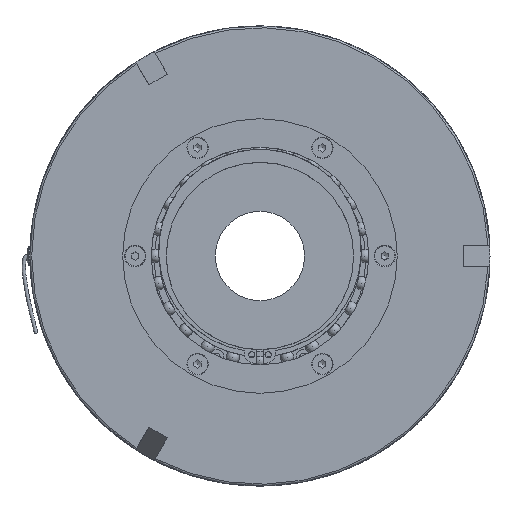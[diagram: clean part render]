
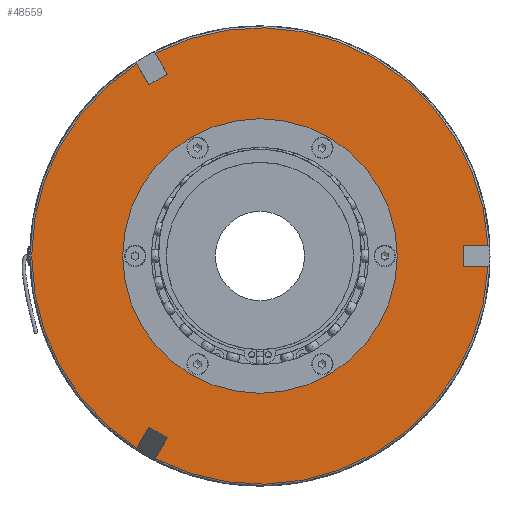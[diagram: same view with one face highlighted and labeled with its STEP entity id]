
A CAD part, left-side view. The second image highlights one B-rep face of the part: STEP entity #48559.
In plain terms, the highlighted planar face has unit normal (-1, 0, 0).
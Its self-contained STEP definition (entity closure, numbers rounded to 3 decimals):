
#2854=FACE_BOUND('',#9701,.T.);
#4524=CIRCLE('',#54452,128.);
#4526=CIRCLE('',#54455,128.);
#4528=CIRCLE('',#54458,128.);
#4529=CIRCLE('',#54460,77.);
#7195=FACE_OUTER_BOUND('',#9700,.T.);
#9700=EDGE_LOOP('',(#39275,#39276,#39277,#39278,#39279,#39280,#39281,#39282,
#39283,#39284,#39285,#39286));
#9701=EDGE_LOOP('',(#39287));
#12479=LINE('',#91088,#14754);
#12481=LINE('',#91104,#14756);
#12483=LINE('',#91109,#14758);
#12484=LINE('',#91176,#14759);
#12485=LINE('',#91178,#14760);
#12486=LINE('',#91179,#14761);
#12487=LINE('',#91181,#14762);
#12488=LINE('',#91183,#14763);
#12489=LINE('',#91184,#14764);
#14754=VECTOR('',#68428,10.);
#14756=VECTOR('',#68434,10.);
#14758=VECTOR('',#68438,10.);
#14759=VECTOR('',#68457,10.);
#14760=VECTOR('',#68458,10.);
#14761=VECTOR('',#68459,10.);
#14762=VECTOR('',#68460,10.);
#14763=VECTOR('',#68461,10.);
#14764=VECTOR('',#68462,10.);
#19499=VERTEX_POINT('',#91085);
#19500=VERTEX_POINT('',#91087);
#19502=VERTEX_POINT('',#91093);
#19504=VERTEX_POINT('',#91108);
#19505=VERTEX_POINT('',#91121);
#19506=VERTEX_POINT('',#91134);
#19508=VERTEX_POINT('',#91147);
#19509=VERTEX_POINT('',#91160);
#19511=VERTEX_POINT('',#91175);
#19512=VERTEX_POINT('',#91177);
#19513=VERTEX_POINT('',#91180);
#19514=VERTEX_POINT('',#91182);
#19515=VERTEX_POINT('',#91185);
#26318=EDGE_CURVE('',#19500,#19499,#12479,.T.);
#26322=EDGE_CURVE('',#19499,#19502,#12481,.T.);
#26324=EDGE_CURVE('',#19504,#19500,#12483,.T.);
#26327=EDGE_CURVE('',#19505,#19502,#4524,.T.);
#26331=EDGE_CURVE('',#19508,#19506,#4526,.T.);
#26334=EDGE_CURVE('',#19504,#19509,#4528,.T.);
#26335=EDGE_CURVE('',#19505,#19511,#12484,.T.);
#26336=EDGE_CURVE('',#19511,#19512,#12485,.T.);
#26337=EDGE_CURVE('',#19512,#19506,#12486,.T.);
#26338=EDGE_CURVE('',#19508,#19513,#12487,.T.);
#26339=EDGE_CURVE('',#19513,#19514,#12488,.T.);
#26340=EDGE_CURVE('',#19514,#19509,#12489,.T.);
#26341=EDGE_CURVE('',#19515,#19515,#4529,.T.);
#39275=ORIENTED_EDGE('',*,*,#26335,.T.);
#39276=ORIENTED_EDGE('',*,*,#26336,.T.);
#39277=ORIENTED_EDGE('',*,*,#26337,.T.);
#39278=ORIENTED_EDGE('',*,*,#26331,.F.);
#39279=ORIENTED_EDGE('',*,*,#26338,.T.);
#39280=ORIENTED_EDGE('',*,*,#26339,.T.);
#39281=ORIENTED_EDGE('',*,*,#26340,.T.);
#39282=ORIENTED_EDGE('',*,*,#26334,.F.);
#39283=ORIENTED_EDGE('',*,*,#26324,.T.);
#39284=ORIENTED_EDGE('',*,*,#26318,.T.);
#39285=ORIENTED_EDGE('',*,*,#26322,.T.);
#39286=ORIENTED_EDGE('',*,*,#26327,.F.);
#39287=ORIENTED_EDGE('',*,*,#26341,.T.);
#44142=PLANE('',#54459);
#48559=ADVANCED_FACE('',(#7195,#2854),#44142,.T.);
#54452=AXIS2_PLACEMENT_3D('',#91132,#68441,#68442);
#54455=AXIS2_PLACEMENT_3D('',#91158,#68447,#68448);
#54458=AXIS2_PLACEMENT_3D('',#91173,#68453,#68454);
#54459=AXIS2_PLACEMENT_3D('',#91174,#68455,#68456);
#54460=AXIS2_PLACEMENT_3D('',#91186,#68463,#68464);
#68428=DIRECTION('',(0.,0.,1.));
#68434=DIRECTION('',(0.,-1.,0.));
#68438=DIRECTION('',(0.,1.,0.));
#68441=DIRECTION('center_axis',(1.,0.,0.));
#68442=DIRECTION('ref_axis',(0.,1.,0.));
#68447=DIRECTION('center_axis',(1.,0.,0.));
#68448=DIRECTION('ref_axis',(0.,1.,0.));
#68453=DIRECTION('center_axis',(1.,0.,0.));
#68454=DIRECTION('ref_axis',(0.,1.,0.));
#68455=DIRECTION('center_axis',(-1.,0.,0.));
#68456=DIRECTION('ref_axis',(0.,0.,
1.));
#68457=DIRECTION('',(0.,-0.5,-0.866));
#68458=DIRECTION('',(0.,0.866,-0.5));
#68459=DIRECTION('',(0.,0.5,0.866));
#68460=DIRECTION('',(0.,-0.5,0.866));
#68461=DIRECTION('',(0.,-0.866,-0.5));
#68462=DIRECTION('',(0.,0.5,-0.866));
#68463=DIRECTION('center_axis',(1.,0.,0.));
#68464=DIRECTION('ref_axis',(0.,1.,0.));
#91085=CARTESIAN_POINT('',(-40.5,-114.272,6.));
#91087=CARTESIAN_POINT('',(-40.5,-114.272,-6.));
#91088=CARTESIAN_POINT('',(-40.5,-114.272,0.));
#91093=CARTESIAN_POINT('',(-40.5,-127.859,6.));
#91104=CARTESIAN_POINT('',(-40.5,-11.781,6.));
#91108=CARTESIAN_POINT('',(-40.5,-127.859,-6.));
#91109=CARTESIAN_POINT('',(-40.5,-11.781,-6.));
#91121=CARTESIAN_POINT('',(-40.5,58.733,113.729));
#91132=CARTESIAN_POINT('Origin',(-40.5,0.,0.));
#91134=CARTESIAN_POINT('',(-40.5,69.126,107.729));
#91147=CARTESIAN_POINT('',(-40.5,69.126,-107.729));
#91158=CARTESIAN_POINT('Origin',(-40.5,0.,0.));
#91160=CARTESIAN_POINT('',(-40.5,58.733,-113.729));
#91173=CARTESIAN_POINT('Origin',(-40.5,0.,0.));
#91174=CARTESIAN_POINT('Origin',(-40.5,102.5,0.));
#91175=CARTESIAN_POINT('',(-40.5,51.94,101.963));
#91176=CARTESIAN_POINT('',(-40.5,39.132,79.779));
#91177=CARTESIAN_POINT('',(-40.5,62.332,95.963));
#91178=CARTESIAN_POINT('',(-40.5,95.574,76.771));
#91179=CARTESIAN_POINT('',(-40.5,49.524,73.779));
#91180=CARTESIAN_POINT('',(-40.5,62.332,-95.963));
#91181=CARTESIAN_POINT('',(-40.5,49.524,-73.779));
#91182=CARTESIAN_POINT('',(-40.5,51.94,-101.963));
#91183=CARTESIAN_POINT('',(-40.5,95.574,-76.771));
#91184=CARTESIAN_POINT('',(-40.5,39.132,-79.779));
#91185=CARTESIAN_POINT('',(-40.5,-77.,0.));
#91186=CARTESIAN_POINT('Origin',(-40.5,0.,0.));
